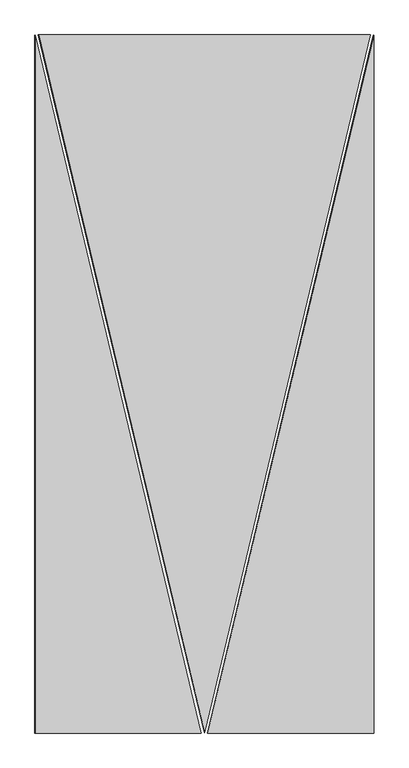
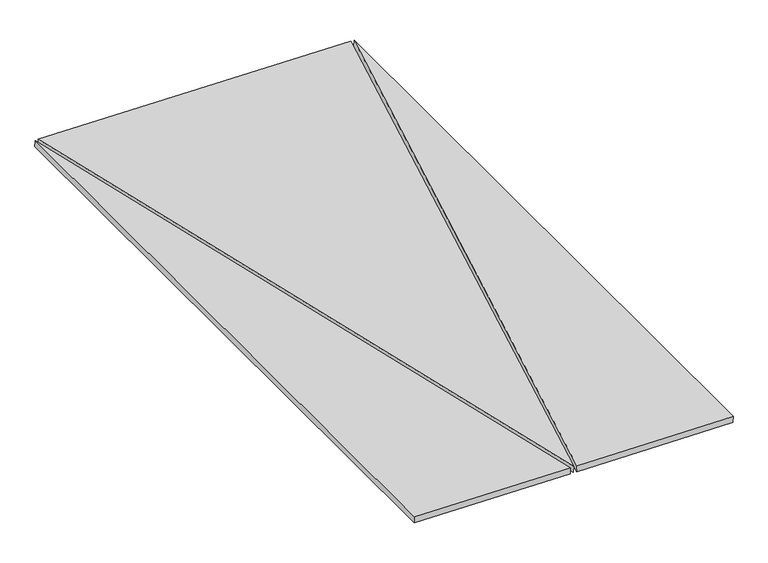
"""IFC4 building model written with IfcOpenShell, lengths in millimetres: proxy geometry, panel sufitowy 6 : panel sufitowy 6."""

import ifcopenshell
import ifcopenshell.guid

model = None  # the IFC model being written
_history = None  # IfcOwnerHistory: only IFC2X3 demands one
_inside = {}  # id of a spatial element -> (the spatial element, [elements in it])
_under = {}  # id of a project, library or spatial element -> (it, [spatial elements below it])
_declared = {}  # id of a project -> (the project, [libraries it declares])
_typed = {}  # id of a type object -> (the type object, [elements of that type])
_made_of = {}  # id of a material, layer set ... -> (it, [elements and type objects made of it])


def new_model(schema):
    """Start an empty IFC model of exactly this schema.

    Asked for "IFC4X3", IfcOpenShell would pick the latest addendum, in which some entities
    have other attributes; the version numbers below select the first issue.
    IFC2X3 requires an IfcOwnerHistory on every rooted entity: one is made here for all.
    """
    global model, _history
    if schema == "IFC4X3":
        model = ifcopenshell.file(schema_version=(4, 3, 0, 0))
    else:
        model = ifcopenshell.file(schema=schema)
    _inside.clear()
    _under.clear()
    _declared.clear()
    _typed.clear()
    _made_of.clear()
    _history = None
    if model.schema == "IFC2X3":
        org = make("IfcOrganization", Name="unknown")
        user = make(
            "IfcPersonAndOrganization",
            ThePerson=make("IfcPerson", FamilyName="unknown"),
            TheOrganization=org,
        )
        app = make(
            "IfcApplication",
            ApplicationDeveloper=org,
            Version="unknown",
            ApplicationFullName="unknown",
            ApplicationIdentifier="unknown",
        )
        _history = make(
            "IfcOwnerHistory",
            OwningUser=user,
            OwningApplication=app,
            ChangeAction="ADDED",
            CreationDate=0,
        )
    return model


def make(cls, **values):
    """One entity of the class cls with the attributes given. An attribute that is None is left unset."""
    return model.create_entity(
        cls, **{name: value for name, value in values.items() if value is not None}
    )


def rooted(cls, **values):
    """An entity with a GlobalId (a new one), such as an element, a storey or a relation."""
    return make(cls, GlobalId=ifcopenshell.guid.new(), OwnerHistory=_history, **values)


def si_unit(unit_type, name, prefix=None):
    """IfcSIUnit, for example si_unit("LENGTHUNIT", "METRE", prefix="MILLI")."""
    return make("IfcSIUnit", UnitType=unit_type, Prefix=prefix, Name=name)


def assignment(units):
    """IfcUnitAssignment: the units of a project."""
    return None if units is None else make("IfcUnitAssignment", Units=units)


def point(xyz):
    """IfcCartesianPoint."""
    return None if xyz is None else make("IfcCartesianPoint", Coordinates=xyz)


def direction(xyz):
    """IfcDirection."""
    return None if xyz is None else make("IfcDirection", DirectionRatios=xyz)


def frame(location, z_axis=None, x_axis=None):
    """IfcAxis2Placement3D, a coordinate frame: its origin and axes. An axis left out is left unset."""
    return make(
        "IfcAxis2Placement3D",
        Location=point(location),
        Axis=direction(z_axis),
        RefDirection=direction(x_axis),
    )


def origin():
    """The frame at (0, 0, 0) with its axes left unset."""
    return frame((0.0, 0.0, 0.0))


def place(relative_to, where):
    """IfcLocalPlacement: puts the frame where relative to a parent placement (None: the world)."""
    return make(
        "IfcLocalPlacement", PlacementRelTo=relative_to, RelativePlacement=where
    )


def context(
    kind, dimensions, precision=None, world=None, true_north=None, identifier=None
):
    """IfcGeometricRepresentationContext, for example the 3D "Model" context."""
    return make(
        "IfcGeometricRepresentationContext",
        ContextIdentifier=identifier,
        ContextType=kind,
        CoordinateSpaceDimension=dimensions,
        Precision=precision,
        WorldCoordinateSystem=world,
        TrueNorth=true_north,
    )


def project(units=None, contexts=None):
    """IfcProject with its units and contexts."""
    return rooted(
        "IfcProject",
        Name="project",
        RepresentationContexts=contexts,
        UnitsInContext=assignment(units),
    )


def spatial(cls, under=None, at=None, **own):
    """A site, building, storey or space (cls), placed at a placement, below another one or the project."""
    s = rooted(cls, ObjectPlacement=at, **own)
    if under is not None:
        _under.setdefault(under.id(), (under, []))[1].append(s)
    return s


def polyline(points):
    """IfcPolyline through the points."""
    return make("IfcPolyline", Points=[point(p) for p in points])


def outline(outer, holes=None, kind="AREA"):
    """IfcArbitraryClosedProfileDef: a profile drawn as a closed curve; with holes, ...WithVoids."""
    if holes is None:
        return make("IfcArbitraryClosedProfileDef", ProfileType=kind, OuterCurve=outer)
    return make(
        "IfcArbitraryProfileDefWithVoids",
        ProfileType=kind,
        OuterCurve=outer,
        InnerCurves=holes,
    )


def extrude(swept, where, along, depth):
    """IfcExtrudedAreaSolid: the profile swept, set in the frame where, extruded along a direction by depth."""
    return make(
        "IfcExtrudedAreaSolid",
        SweptArea=swept,
        Position=where,
        ExtrudedDirection=direction(along),
        Depth=depth,
    )


def shape(context_of_items, identifier, shape_type, items):
    """IfcShapeRepresentation: the items that make up one representation, for example the "Body"."""
    return make(
        "IfcShapeRepresentation",
        ContextOfItems=context_of_items,
        RepresentationIdentifier=identifier,
        RepresentationType=shape_type,
        Items=items,
    )


def source(mapping_origin, context_of_items, identifier, shape_type, items):
    """IfcRepresentationMap: a shape defined once, which mapped items show again and again."""
    return make(
        "IfcRepresentationMap",
        MappingOrigin=mapping_origin,
        MappedRepresentation=shape(context_of_items, identifier, shape_type, items),
    )


def transform(
    local_origin,
    x_axis=None,
    y_axis=None,
    z_axis=None,
    scale=None,
    scale2=None,
    scale3=None,
    uniform=True,
):
    """IfcCartesianTransformationOperator3D, or its non-uniform kind. x_axis, y_axis, z_axis: its Axis1, 2, 3."""
    if uniform:
        return make(
            "IfcCartesianTransformationOperator3D",
            Axis1=direction(x_axis),
            Axis2=direction(y_axis),
            LocalOrigin=point(local_origin),
            Scale=scale,
            Axis3=direction(z_axis),
        )
    return make(
        "IfcCartesianTransformationOperator3DnonUniform",
        Axis1=direction(x_axis),
        Axis2=direction(y_axis),
        LocalOrigin=point(local_origin),
        Scale=scale,
        Axis3=direction(z_axis),
        Scale2=scale2,
        Scale3=scale3,
    )


def mapped(mapping_source, mapping_target):
    """IfcMappedItem: shows the shape of a source again, moved by a transform."""
    return make(
        "IfcMappedItem", MappingSource=mapping_source, MappingTarget=mapping_target
    )


def made_of(thing, what):
    """Note that an element or type object is made of a material, layer set ...; save() writes the relation."""
    if what is not None:
        _made_of.setdefault(what.id(), (what, []))[1].append(thing)
    return thing


def element(
    cls,
    number,
    at=None,
    inside=None,
    cuts=None,
    type_object=None,
    material=None,
    context=None,
    identifier="Body",
    shape_type=None,
    held_by="IfcProductDefinitionShape",
    body=None,
    shapes=None,
    **own,
):
    """One element of the class cls, such as IfcWall. Its Tag is "e" and its number.

    at: its placement. inside: the storey or other place that contains it. cuts: it is an
    opening in that element (IfcRelVoidsElement). A single representation is given by context,
    identifier, shape_type and body (its items); several are given by shapes. held_by: the class
    of the entity that holds the representations. save() writes the other relations.
    """
    e = rooted(cls, Tag="e%d" % number, ObjectPlacement=at, **own)
    if body is not None:
        shapes = [shape(context, identifier, shape_type, body)]
    if shapes is not None:
        e.Representation = make(held_by, Representations=shapes)
    if inside is not None:
        _inside.setdefault(inside.id(), (inside, []))[1].append(e)
    if cuts is not None:
        rooted(
            "IfcRelVoidsElement", RelatingBuildingElement=cuts, RelatedOpeningElement=e
        )
    if type_object is not None:
        _typed.setdefault(type_object.id(), (type_object, []))[1].append(e)
    return made_of(e, material)


def aggregate(whole, parts):
    """IfcRelAggregates: a whole, such as a stair, and the parts it consists of."""
    return rooted("IfcRelAggregates", RelatingObject=whole, RelatedObjects=parts)


def save(model, path):
    """Write the relations noted so far, then the file.

    IfcRelAggregates (storeys below a building ...), IfcRelContainedInSpatialStructure (elements
    in a storey), IfcRelDefinesByType, IfcRelAssociatesMaterial and IfcRelDeclares: one each for
    every whole, place, type object, material and project.
    """
    for whole, parts in _under.values():
        aggregate(whole, parts)
    for where, things in _inside.values():
        rooted(
            "IfcRelContainedInSpatialStructure",
            RelatedElements=things,
            RelatingStructure=where,
        )
    for kind, things in _typed.values():
        rooted("IfcRelDefinesByType", RelatedObjects=things, RelatingType=kind)
    for what, things in _made_of.values():
        rooted("IfcRelAssociatesMaterial", RelatedObjects=things, RelatingMaterial=what)
    for by, libraries in _declared.values():
        rooted("IfcRelDeclares", RelatingContext=by, RelatedDefinitions=libraries)
    model.write(path)


def generic_models_fa9d7e46(model_context):
    return source(origin(), model_context, "Body", "SweptSolid", [
        extrude(outline(polyline([(-900.9098917, 0.0), (1235.4098448, 1e-07), (1006.1909889, -962.7191946), (-900.9098917, 0.0)])), frame((551.1772544, -1457.4151922, 1175.0389156), z_axis=(0.01745240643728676, 0.0, 0.9998476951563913), x_axis=(-0.2315852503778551, 0.9728062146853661, 0.00404233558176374)), (0.0, 0.0, 1.0), 20.0),
        extrude(outline(polyline([(-127.5000001, 0.0), (-622.5000001, 0.0), (-127.5000001, 2079.0), (-127.5000001, 0.0)])), frame((1391.9388674, -2335.0, 1160.363367), z_axis=(0.017452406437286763, 0.0, 0.9998476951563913), x_axis=(0.9998476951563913, 0.0, -0.017452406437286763)), (0.0, 0.0, 1.0), 20.0),
        extrude(outline(polyline([(-127.5, 0.0), (-127.5, -2079.0), (-622.5, 0.0), (-127.5, 0.0)])), frame((127.131533, -2335.0, 1182.4406612), z_axis=(0.017452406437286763, 0.0, 0.9998476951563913), x_axis=(-0.9998476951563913, 0.0, 0.017452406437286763)), (0.0, 0.0, 1.0), 20.0),
    ])


if __name__ == "__main__":
    model = new_model("IFC4")
    model_context = context("Model", 3, world=origin())
    ifc_project = project(units=[si_unit("LENGTHUNIT", "METRE", prefix="MILLI")], contexts=[model_context])
    site = spatial("IfcSite", under=ifc_project)
    building = spatial("IfcBuilding", under=site)
    placement = place(None, origin())
    generic_models_shape = generic_models_fa9d7e46(model_context)
    element("IfcBuildingElementProxy", 1, Name="panel sufitowy 6 : panel sufitowy 6", ObjectType="panel sufitowy 6 : panel sufitowy 6", at=placement, inside=building, context=model_context, shape_type="MappedRepresentation", body=[
        mapped(generic_models_shape, transform((0.0, 0.0, 0.0), x_axis=(1.0, 0.0, 0.0), y_axis=(0.0, 1.0, 0.0), z_axis=(0.0, 0.0, 1.0))),
    ])
    save(model, "model.ifc")
